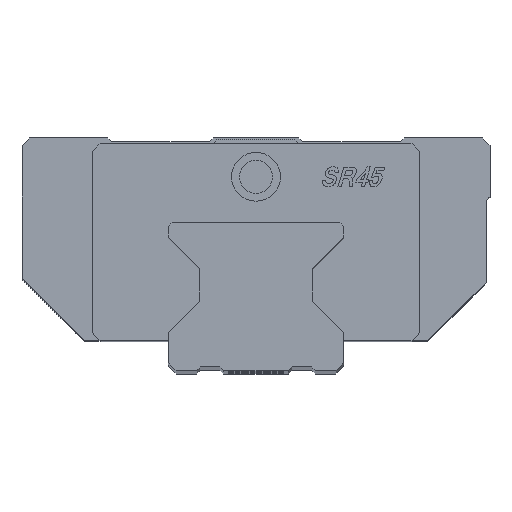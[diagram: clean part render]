
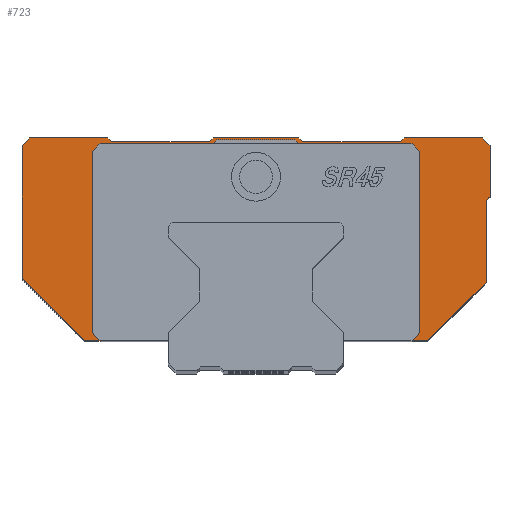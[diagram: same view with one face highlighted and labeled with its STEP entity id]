
A CAD part, top view. The second image highlights one B-rep face of the part: STEP entity #723.
In plain terms, the highlighted planar face has unit normal (0, 0, 1).
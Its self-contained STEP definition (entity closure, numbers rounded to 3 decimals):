
#723=ADVANCED_FACE('',(#1102),#961,.T.);
#961=PLANE('',#5102);
#1102=FACE_OUTER_BOUND('',#1381,.T.);
#1381=EDGE_LOOP('',(#2097,#2098,#2099,#2100,#2101,#2102,#2103,#2104,#2105,
#2106,#2107,#2108,#2109,#2110,#2111,#2112,#2113,#2114,#2115,#2116,#2117,
#2118,#2119,#2120,#2121,#2122,#2123,#2124,#2125,#2126));
#2097=ORIENTED_EDGE('',*,*,#3647,.T.);
#2098=ORIENTED_EDGE('',*,*,#3665,.T.);
#2099=ORIENTED_EDGE('',*,*,#3702,.T.);
#2100=ORIENTED_EDGE('',*,*,#3697,.T.);
#2101=ORIENTED_EDGE('',*,*,#3691,.T.);
#2102=ORIENTED_EDGE('',*,*,#3706,.T.);
#2103=ORIENTED_EDGE('',*,*,#3707,.T.);
#2104=ORIENTED_EDGE('',*,*,#3708,.T.);
#2105=ORIENTED_EDGE('',*,*,#3709,.T.);
#2106=ORIENTED_EDGE('',*,*,#3710,.T.);
#2107=ORIENTED_EDGE('',*,*,#3711,.T.);
#2108=ORIENTED_EDGE('',*,*,#3712,.T.);
#2109=ORIENTED_EDGE('',*,*,#3713,.T.);
#2110=ORIENTED_EDGE('',*,*,#3714,.T.);
#2111=ORIENTED_EDGE('',*,*,#3715,.T.);
#2112=ORIENTED_EDGE('',*,*,#3716,.T.);
#2113=ORIENTED_EDGE('',*,*,#3717,.T.);
#2114=ORIENTED_EDGE('',*,*,#3718,.T.);
#2115=ORIENTED_EDGE('',*,*,#3719,.T.);
#2116=ORIENTED_EDGE('',*,*,#3720,.F.);
#2117=ORIENTED_EDGE('',*,*,#3721,.F.);
#2118=ORIENTED_EDGE('',*,*,#3722,.F.);
#2119=ORIENTED_EDGE('',*,*,#3637,.F.);
#2120=ORIENTED_EDGE('',*,*,#3723,.F.);
#2121=ORIENTED_EDGE('',*,*,#3724,.F.);
#2122=ORIENTED_EDGE('',*,*,#3725,.F.);
#2123=ORIENTED_EDGE('',*,*,#3633,.F.);
#2124=ORIENTED_EDGE('',*,*,#3632,.F.);
#2125=ORIENTED_EDGE('',*,*,#3626,.F.);
#2126=ORIENTED_EDGE('',*,*,#3620,.F.);
#3125=VERTEX_POINT('',#7139);
#3126=VERTEX_POINT('',#7141);
#3130=VERTEX_POINT('',#7153);
#3134=VERTEX_POINT('',#7165);
#3135=VERTEX_POINT('',#7169);
#3138=VERTEX_POINT('',#7175);
#3139=VERTEX_POINT('',#7177);
#3146=VERTEX_POINT('',#7195);
#3159=VERTEX_POINT('',#7230);
#3179=VERTEX_POINT('',#7282);
#3180=VERTEX_POINT('',#7284);
#3183=VERTEX_POINT('',#7296);
#3185=VERTEX_POINT('',#7315);
#3186=VERTEX_POINT('',#7317);
#3187=VERTEX_POINT('',#7319);
#3188=VERTEX_POINT('',#7321);
#3189=VERTEX_POINT('',#7323);
#3190=VERTEX_POINT('',#7325);
#3191=VERTEX_POINT('',#7327);
#3192=VERTEX_POINT('',#7329);
#3193=VERTEX_POINT('',#7331);
#3194=VERTEX_POINT('',#7333);
#3195=VERTEX_POINT('',#7335);
#3196=VERTEX_POINT('',#7337);
#3197=VERTEX_POINT('',#7339);
#3198=VERTEX_POINT('',#7341);
#3199=VERTEX_POINT('',#7343);
#3200=VERTEX_POINT('',#7345);
#3201=VERTEX_POINT('',#7348);
#3202=VERTEX_POINT('',#7350);
#3620=EDGE_CURVE('',#3126,#3125,#4188,.T.);
#3626=EDGE_CURVE('',#3125,#3130,#4192,.T.);
#3632=EDGE_CURVE('',#3130,#3134,#4196,.T.);
#3633=EDGE_CURVE('',#3134,#3135,#4197,.T.);
#3637=EDGE_CURVE('',#3138,#3139,#4201,.T.);
#3647=EDGE_CURVE('',#3126,#3146,#4210,.T.);
#3665=EDGE_CURVE('',#3146,#3159,#4223,.T.);
#3691=EDGE_CURVE('',#3180,#3179,#4241,.T.);
#3697=EDGE_CURVE('',#3183,#3180,#4247,.T.);
#3702=EDGE_CURVE('',#3159,#3183,#4252,.T.);
#3706=EDGE_CURVE('',#3179,#3185,#4256,.T.);
#3707=EDGE_CURVE('',#3185,#3186,#4257,.T.);
#3708=EDGE_CURVE('',#3186,#3187,#4258,.T.);
#3709=EDGE_CURVE('',#3187,#3188,#4259,.T.);
#3710=EDGE_CURVE('',#3188,#3189,#4260,.T.);
#3711=EDGE_CURVE('',#3189,#3190,#4261,.T.);
#3712=EDGE_CURVE('',#3190,#3191,#4262,.T.);
#3713=EDGE_CURVE('',#3191,#3192,#4263,.T.);
#3714=EDGE_CURVE('',#3192,#3193,#4264,.T.);
#3715=EDGE_CURVE('',#3193,#3194,#4265,.T.);
#3716=EDGE_CURVE('',#3194,#3195,#4266,.T.);
#3717=EDGE_CURVE('',#3195,#3196,#4267,.T.);
#3718=EDGE_CURVE('',#3196,#3197,#4268,.T.);
#3719=EDGE_CURVE('',#3197,#3198,#4269,.T.);
#3720=EDGE_CURVE('',#3199,#3198,#4270,.T.);
#3721=EDGE_CURVE('',#3200,#3199,#4271,.T.);
#3722=EDGE_CURVE('',#3139,#3200,#4272,.T.);
#3723=EDGE_CURVE('',#3201,#3138,#4273,.T.);
#3724=EDGE_CURVE('',#3202,#3201,#4274,.T.);
#3725=EDGE_CURVE('',#3135,#3202,#4275,.T.);
#4188=LINE('',#7142,#4625);
#4192=LINE('',#7154,#4629);
#4196=LINE('',#7166,#4633);
#4197=LINE('',#7168,#4634);
#4201=LINE('',#7176,#4638);
#4210=LINE('',#7196,#4647);
#4223=LINE('',#7231,#4660);
#4241=LINE('',#7283,#4678);
#4247=LINE('',#7295,#4684);
#4252=LINE('',#7305,#4689);
#4256=LINE('',#7314,#4693);
#4257=LINE('',#7316,#4694);
#4258=LINE('',#7318,#4695);
#4259=LINE('',#7320,#4696);
#4260=LINE('',#7322,#4697);
#4261=LINE('',#7324,#4698);
#4262=LINE('',#7326,#4699);
#4263=LINE('',#7328,#4700);
#4264=LINE('',#7330,#4701);
#4265=LINE('',#7332,#4702);
#4266=LINE('',#7334,#4703);
#4267=LINE('',#7336,#4704);
#4268=LINE('',#7338,#4705);
#4269=LINE('',#7340,#4706);
#4270=LINE('',#7342,#4707);
#4271=LINE('',#7344,#4708);
#4272=LINE('',#7346,#4709);
#4273=LINE('',#7347,#4710);
#4274=LINE('',#7349,#4711);
#4275=LINE('',#7351,#4712);
#4625=VECTOR('',#5619,1.);
#4629=VECTOR('',#5631,1.);
#4633=VECTOR('',#5643,1.);
#4634=VECTOR('',#5646,1.);
#4638=VECTOR('',#5650,1.);
#4647=VECTOR('',#5665,1.);
#4660=VECTOR('',#5696,1.);
#4678=VECTOR('',#5742,1.);
#4684=VECTOR('',#5754,1.);
#4689=VECTOR('',#5765,1.);
#4693=VECTOR('',#5779,1.);
#4694=VECTOR('',#5780,1.);
#4695=VECTOR('',#5781,1.);
#4696=VECTOR('',#5782,1.);
#4697=VECTOR('',#5783,1.);
#4698=VECTOR('',#5784,1.);
#4699=VECTOR('',#5785,1.);
#4700=VECTOR('',#5786,1.);
#4701=VECTOR('',#5787,1.);
#4702=VECTOR('',#5788,1.);
#4703=VECTOR('',#5789,1.);
#4704=VECTOR('',#5790,1.);
#4705=VECTOR('',#5791,1.);
#4706=VECTOR('',#5792,1.);
#4707=VECTOR('',#5793,1.);
#4708=VECTOR('',#5794,1.);
#4709=VECTOR('',#5795,1.);
#4710=VECTOR('',#5796,1.);
#4711=VECTOR('',#5797,1.);
#4712=VECTOR('',#5798,1.);
#5102=AXIS2_PLACEMENT_3D('',#7352,#5799,#5800);
#5619=DIRECTION('',(0.707,0.707,0.));
#5631=DIRECTION('',(0.,1.,0.));
#5643=DIRECTION('',(-0.707,0.707,0.));
#5646=DIRECTION('',(-1.,0.,0.));
#5650=DIRECTION('',(-1.,0.,0.));
#5665=DIRECTION('',(1.,0.,0.));
#5696=DIRECTION('',(0.707,0.707,0.));
#5742=DIRECTION('',(0.,1.,0.));
#5754=DIRECTION('',(0.707,0.707,0.));
#5765=DIRECTION('',(0.,1.,0.));
#5779=DIRECTION('',(-0.707,0.707,0.));
#5780=DIRECTION('',(-1.,0.,0.));
#5781=DIRECTION('',(-0.707,-0.707,0.));
#5782=DIRECTION('',(-1.,0.,0.));
#5783=DIRECTION('',(-0.707,0.707,0.));
#5784=DIRECTION('',(-1.,0.,0.));
#5785=DIRECTION('',(-0.707,-0.707,0.));
#5786=DIRECTION('',(-1.,0.,0.));
#5787=DIRECTION('',(-0.707,0.707,0.));
#5788=DIRECTION('',(-1.,0.,0.));
#5789=DIRECTION('',(-0.707,-0.707,0.));
#5790=DIRECTION('',(0.,-1.,0.));
#5791=DIRECTION('',(0.707,-0.707,0.));
#5792=DIRECTION('',(1.,0.,0.));
#5793=DIRECTION('',(0.707,-0.707,0.));
#5794=DIRECTION('',(0.,-1.,0.));
#5795=DIRECTION('',(-0.707,-0.707,0.));
#5796=DIRECTION('',(-0.707,-0.707,0.));
#5797=DIRECTION('',(-1.,0.,0.));
#5798=DIRECTION('',(-0.707,0.707,0.));
#5799=DIRECTION('',(0.,0.,1.));
#5800=DIRECTION('',(1.,0.,0.));
#7139=CARTESIAN_POINT('',(42.,10.,53.));
#7141=CARTESIAN_POINT('',(40.,8.,53.));
#7142=CARTESIAN_POINT('',(40.,8.,53.));
#7153=CARTESIAN_POINT('',(42.,56.5,53.));
#7154=CARTESIAN_POINT('',(42.,10.,53.));
#7165=CARTESIAN_POINT('',(40.,58.5,53.));
#7166=CARTESIAN_POINT('',(42.,56.5,53.));
#7168=CARTESIAN_POINT('',(40.,58.5,53.));
#7169=CARTESIAN_POINT('',(11.,58.5,53.));
#7175=CARTESIAN_POINT('',(-11.,58.5,53.));
#7176=CARTESIAN_POINT('',(-11.,58.5,53.));
#7177=CARTESIAN_POINT('',(-40.,58.5,53.));
#7195=CARTESIAN_POINT('',(44.,8.,53.));
#7196=CARTESIAN_POINT('',(40.,8.,53.));
#7230=CARTESIAN_POINT('',(59.,23.,53.));
#7231=CARTESIAN_POINT('',(44.,8.,53.));
#7282=CARTESIAN_POINT('',(60.,58.,53.));
#7283=CARTESIAN_POINT('',(60.,45.,53.));
#7284=CARTESIAN_POINT('',(60.,45.,53.));
#7295=CARTESIAN_POINT('',(59.,44.,53.));
#7296=CARTESIAN_POINT('',(59.,44.,53.));
#7305=CARTESIAN_POINT('',(59.,23.,53.));
#7314=CARTESIAN_POINT('',(60.,58.,53.));
#7315=CARTESIAN_POINT('',(58.,60.,53.));
#7316=CARTESIAN_POINT('',(58.,60.,53.));
#7317=CARTESIAN_POINT('',(38.,60.,53.));
#7318=CARTESIAN_POINT('',(38.,60.,53.));
#7319=CARTESIAN_POINT('',(37.,59.,53.));
#7320=CARTESIAN_POINT('',(37.,59.,53.));
#7321=CARTESIAN_POINT('',(12.,59.,53.));
#7322=CARTESIAN_POINT('',(12.,59.,53.));
#7323=CARTESIAN_POINT('',(11.,60.,53.));
#7324=CARTESIAN_POINT('',(11.,60.,53.));
#7325=CARTESIAN_POINT('',(-11.,60.,53.));
#7326=CARTESIAN_POINT('',(-11.,60.,53.));
#7327=CARTESIAN_POINT('',(-12.,59.,53.));
#7328=CARTESIAN_POINT('',(-12.,59.,53.));
#7329=CARTESIAN_POINT('',(-37.,59.,53.));
#7330=CARTESIAN_POINT('',(-37.,59.,53.));
#7331=CARTESIAN_POINT('',(-38.,60.,53.));
#7332=CARTESIAN_POINT('',(-38.,60.,53.));
#7333=CARTESIAN_POINT('',(-58.,60.,53.));
#7334=CARTESIAN_POINT('',(-58.,60.,53.));
#7335=CARTESIAN_POINT('',(-60.,58.,53.));
#7336=CARTESIAN_POINT('',(-60.,58.,53.));
#7337=CARTESIAN_POINT('',(-60.,24.,53.));
#7338=CARTESIAN_POINT('',(-60.,24.,53.));
#7339=CARTESIAN_POINT('',(-44.,8.,53.));
#7340=CARTESIAN_POINT('',(-44.,8.,53.));
#7341=CARTESIAN_POINT('',(-40.,8.,53.));
#7342=CARTESIAN_POINT('',(-42.,10.,53.));
#7343=CARTESIAN_POINT('',(-42.,10.,53.));
#7344=CARTESIAN_POINT('',(-42.,56.5,53.));
#7345=CARTESIAN_POINT('',(-42.,56.5,53.));
#7346=CARTESIAN_POINT('',(-40.,58.5,53.));
#7347=CARTESIAN_POINT('',(-10.,59.5,53.));
#7348=CARTESIAN_POINT('',(-10.,59.5,53.));
#7349=CARTESIAN_POINT('',(10.,59.5,53.));
#7350=CARTESIAN_POINT('',(10.,59.5,53.));
#7351=CARTESIAN_POINT('',(11.,58.5,53.));
#7352=CARTESIAN_POINT('',(-66.,5.4,53.));
